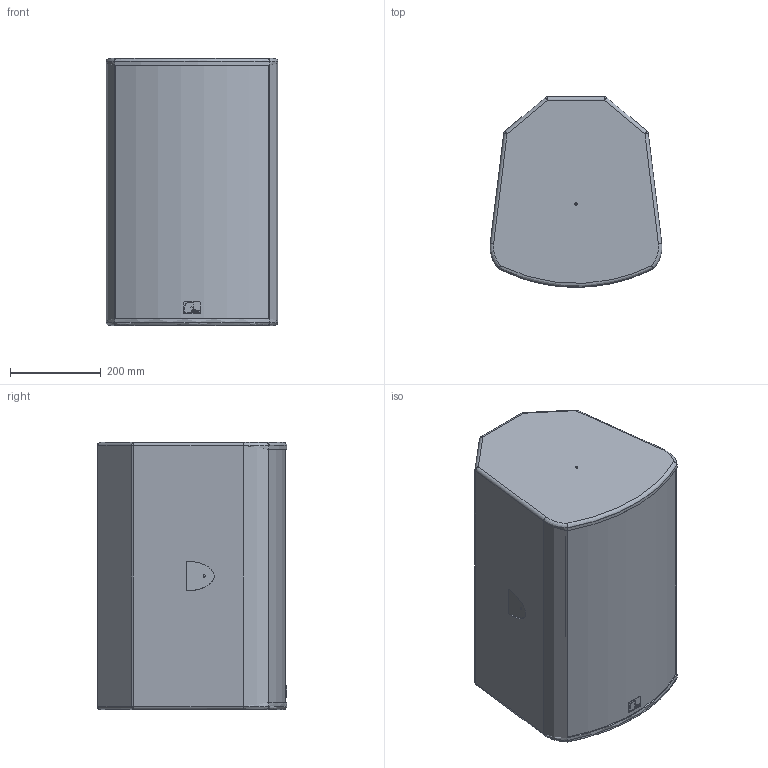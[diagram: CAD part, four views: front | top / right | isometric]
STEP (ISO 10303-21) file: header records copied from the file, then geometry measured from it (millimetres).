
FILE_DESCRIPTION(/* description */ (''),/* implementation_level */ '2;1');
FILE_NAME(/* name */ 'AT-30_LO',/* time_stamp */ '2018-08-07T09:38:15+02:00',/* author */ (''),/* organization */ (''),/* preprocessor_version */ 'ST-DEVELOPER v14',/* originating_system */ '',/* authorisation */ '');
FILE_SCHEMA (('AUTOMOTIVE_DESIGN'));
Length unit declared in the file: millimetre
Products named in the file (1): Document
Bounding box: 379.77 x 419.74 x 590 mm (x, y, z)
Surface area: 1503337 mm2 (no closed solid volume)
Topology: 0 solids, 159 shells, 167 faces, 760 edges, 744 vertices
Faces by surface type: bspline 131, plane 36
Entity records: 9636 total; most frequent: CARTESIAN_POINT 5983, ORIENTED_EDGE 776, EDGE_CURVE 760, VERTEX_POINT 744, B_SPLINE_CURVE_WITH_KNOTS 216, EDGE_LOOP 182, ADVANCED_FACE 167, FACE_OUTER_BOUND 167
